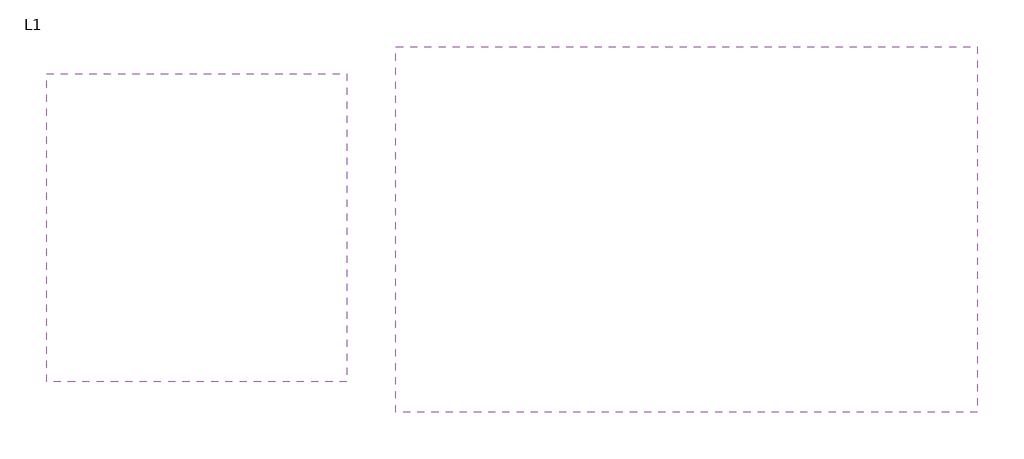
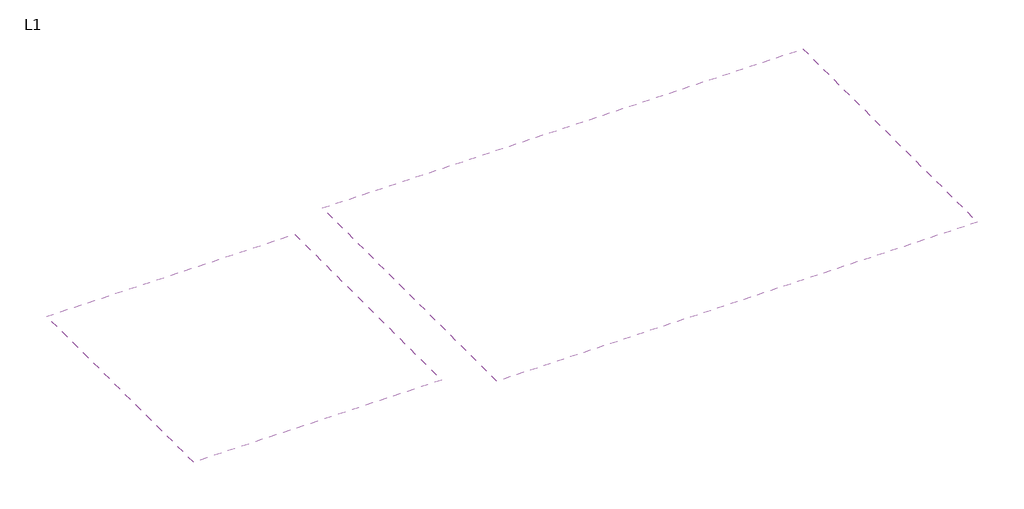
# One storey, incomplete: 2 coverings.
"""IFC4 building model written with IfcOpenShell, lengths in millimetres."""

from ifc_helpers import new_model, si_unit, frame, origin, place, context, project, spatial, polyline, outline, extrude, element, save

model = new_model("IFC4")

# Units and contexts
model_context = context("Model", 3, world=origin())
ifc_project = project(units=[si_unit("LENGTHUNIT", "METRE", prefix="MILLI")], contexts=[model_context])

# Site, building, storey
site = spatial("IfcSite", under=ifc_project)
building = spatial("IfcBuilding", under=site)
storey = spatial("IfcBuildingStorey", under=building, Name="L1", Elevation=0.0)

# Coverings
placement = place(None, origin())
element("IfcCovering", 1, ObjectType="2' x 2' ACT System", at=placement, inside=storey, context=model_context, shape_type="SweptSolid", body=[
    extrude(outline(polyline([(-5337.649739, -2361.959746), (-5337.649739, 4877.040254), (6168.550261, 4877.040254), (6168.550261, -2361.959746), (-5337.649739, -2361.959746)])), frame((0.0, 0.0, 2743.2), z_axis=(0.0, 0.0, 1.0), x_axis=(1.0, 0.0, 0.0)), (0.0, 0.0, 1.0), 57.15),
])
element("IfcCovering", 2, ObjectType="2' x 2' ACT System", at=placement, inside=storey, context=model_context, shape_type="SweptSolid", body=[
    extrude(outline(polyline([(-6308.7675223, 4343.640254), (-6308.7675223, -1752.359746), (-12252.3675223, -1752.359746), (-12252.3675223, 4343.640254), (-6308.7675223, 4343.640254)])), frame((0.0, 0.0, 2743.2), z_axis=(0.0, 0.0, 1.0), x_axis=(1.0, 0.0, 0.0)), (0.0, 0.0, 1.0), 57.15),
])

save(model, "model.ifc")
